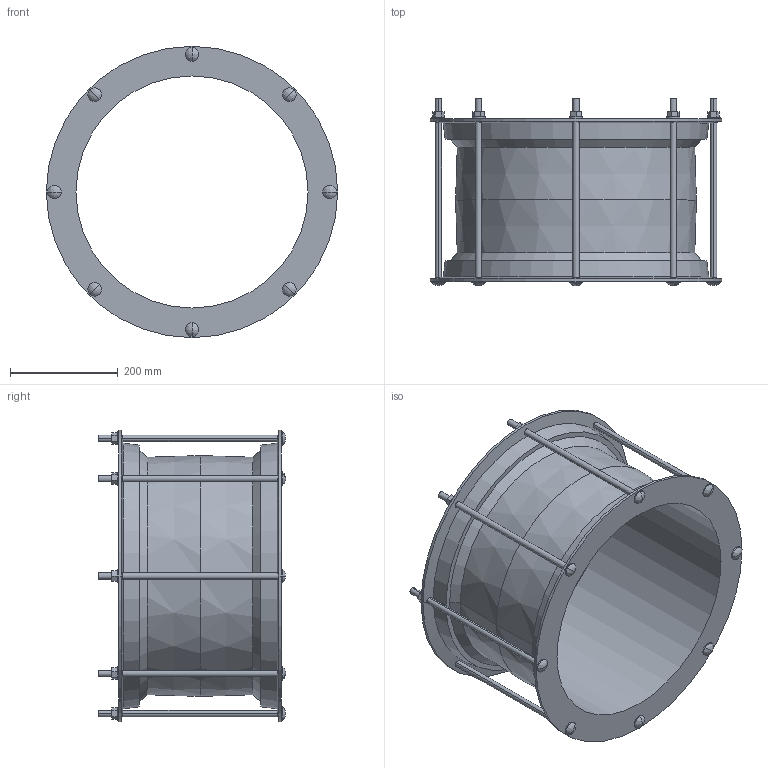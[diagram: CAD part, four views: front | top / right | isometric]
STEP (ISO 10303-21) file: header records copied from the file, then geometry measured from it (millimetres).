
FILE_DESCRIPTION((''),'2;1');
FILE_NAME('MAXIFIT_412_429','2018-12-18T',('mfairey'),('Glynwed Pipe Systems'),'CREO PARAMETRIC BY PTC INC, 2016130','CREO PARAMETRIC BY PTC INC, 2016130','');
FILE_SCHEMA(('CONFIG_CONTROL_DESIGN'));
Length unit declared in the file: millimetre
Products named in the file (1): MAXIFIT_412_429
Bounding box: 541 x 348 x 541 mm (x, y, z)
Volume: 6373288.7 mm3; surface area: 1225425.8 mm2
Topology: 1 solids, 1 shells, 178 faces, 432 edges, 270 vertices
Faces by surface type: plane 76, cylinder 70, cone 16, bspline 16
Entity records: 6298 total; most frequent: CARTESIAN_POINT 2146, DIRECTION 842, ORIENTED_EDGE 832, EDGE_CURVE 416, AXIS2_PLACEMENT_3D 304, VERTEX_POINT 270, VECTOR 234, LINE 234
